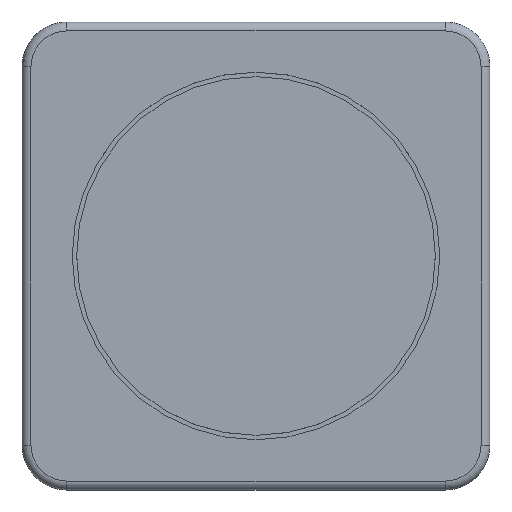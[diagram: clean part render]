
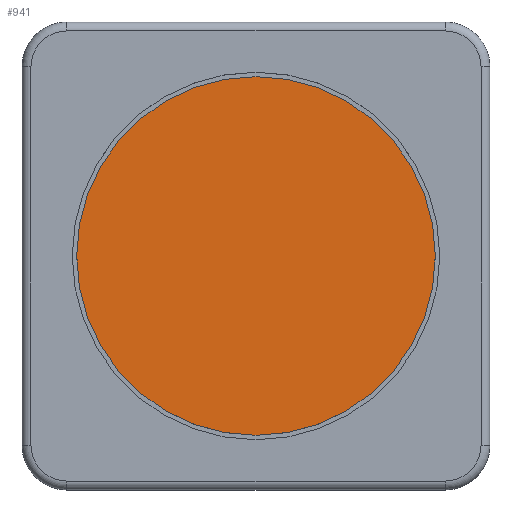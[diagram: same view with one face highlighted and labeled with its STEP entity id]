
A CAD part, top view. The second image highlights one B-rep face of the part: STEP entity #941.
In plain terms, the highlighted planar face has unit normal (0, 0, 1).
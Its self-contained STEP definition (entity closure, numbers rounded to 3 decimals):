
#941=ADVANCED_FACE('',(#2606),#2607,.T.);
#2606=FACE_OUTER_BOUND('',#5019,.T.);
#2607=PLANE('',#5020);
#5019=EDGE_LOOP('',(#8003));
#5020=AXIS2_PLACEMENT_3D('',#8004,#8005,#8006);
#8003=ORIENTED_EDGE('',*,*,#15167,.T.);
#8004=CARTESIAN_POINT('',(0.,0.,0.));
#8005=DIRECTION('',(0.0,0.0,1.0));
#8006=DIRECTION('',(1.0,0.0,0.0));
#15167=EDGE_CURVE('',#18575,#18575,#18576,.T.);
#18575=VERTEX_POINT('',#23381);
#18576=CIRCLE('',#23382,10.0);
#23381=CARTESIAN_POINT('',(10.,0.,0.));
#23382=AXIS2_PLACEMENT_3D('',#28797,#28798,#28799);
#28797=CARTESIAN_POINT('',(0.,0.,0.));
#28798=DIRECTION('',(0.0,0.0,1.0));
#28799=DIRECTION('',(1.0,0.0,0.0));
